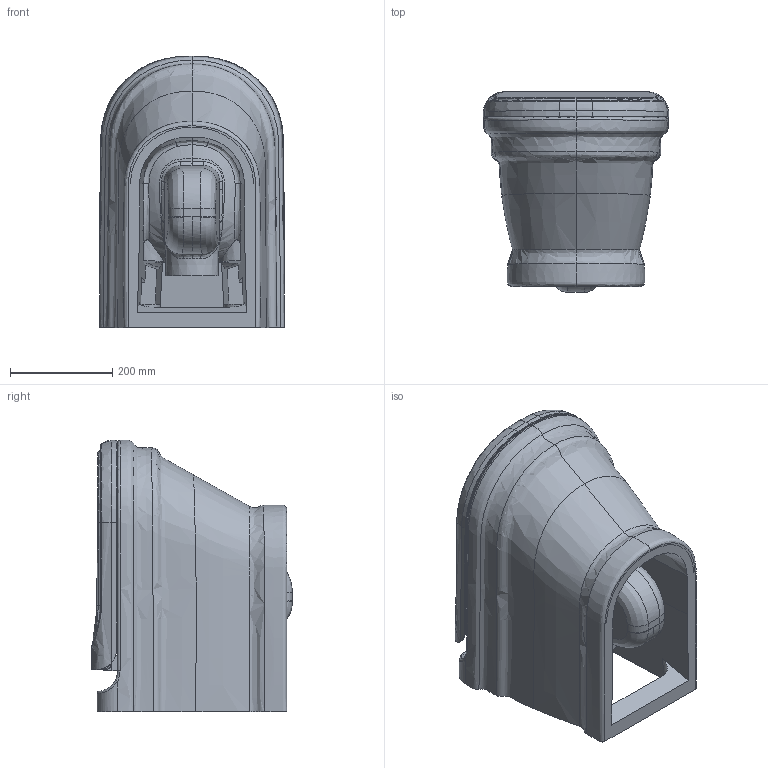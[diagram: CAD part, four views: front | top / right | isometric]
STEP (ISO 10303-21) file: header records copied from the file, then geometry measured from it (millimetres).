
FILE_DESCRIPTION (( 'STEP AP203' ), '1' );
FILE_NAME ('an320-00cb00e-0000-kc0303-01-0000e_1 (1).STEP', '2023-05-31T08:06:00', ( '' ), ( '' ), 'SwSTEP 2.0', 'SolidWorks 2023', '' );
FILE_SCHEMA (( 'CONFIG_CONTROL_DESIGN' ));
Products named in the file (1): an320-00cb00e-0000-kc0303-01-0000e_1 (1)
Bounding box: 362.02 x 391.5 x 530.1 mm (x, y, z)
Volume: 20293264.2 mm3; surface area: 1956760.7 mm2
Topology: 11 solids, 11 shells, 1193 faces, 2959 edges, 1805 vertices
Faces by surface type: bspline 507, cylinder 244, plane 217, torus 156, cone 65, sphere 4
Entity records: 216012 total; most frequent: CARTESIAN_POINT 191708, ORIENTED_EDGE 5894, DIRECTION 3941, EDGE_CURVE 2947, VERTEX_POINT 1805, AXIS2_PLACEMENT_3D 1613, EDGE_LOOP 1236, ADVANCED_FACE 1193
